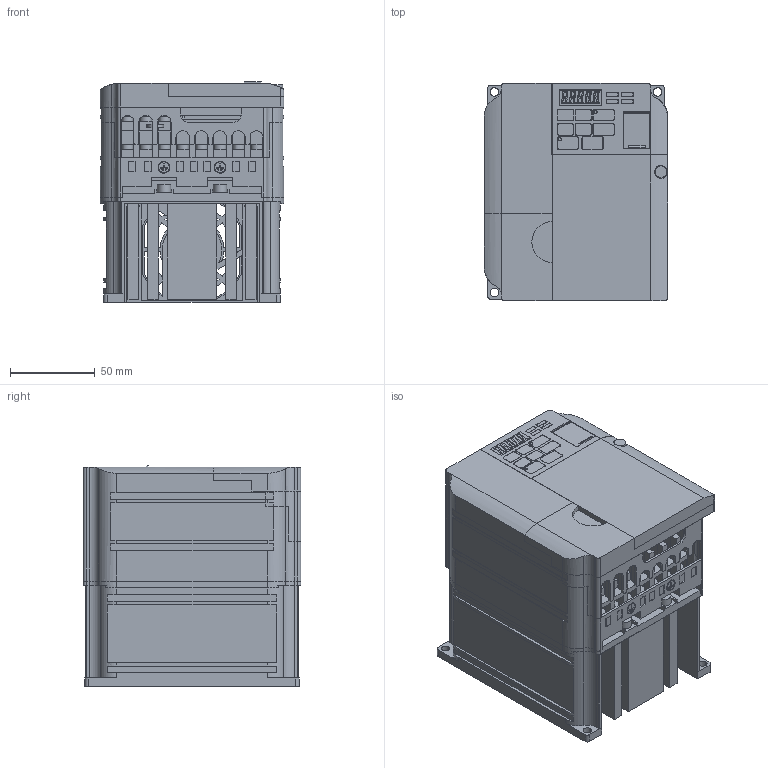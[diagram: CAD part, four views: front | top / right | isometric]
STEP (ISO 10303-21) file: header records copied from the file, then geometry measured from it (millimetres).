
FILE_DESCRIPTION((''),'2;1');
FILE_NAME('V1000_IP20_FRAME_G1_ASM','2010-07-20T',('jc'),('YASKAWA ELECTRIC CORCORATION'),'PRO/ENGINEER BY PARAMETRIC TECHNOLOGY CORPORATION, 2008490','PRO/ENGINEER BY PARAMETRIC TECHNOLOGY CORPORATION, 2008490','');
FILE_SCHEMA(('CONFIG_CONTROL_DESIGN'));
Length unit declared in the file: millimetre
Products named in the file (25): NONE-46688; ASM0063_ASM; NONE-18808; ASM0064_ASM; NONE-43697; ASM0065_ASM; NONE-37211; ASM0066_ASM; NONE-28452; BASE_FAN_B1________ANY_ASM; NONE-29928; ASM0067_ASM; NONE-38762; ASM0068_ASM; NONE-47886; ASM0069_ASM; NONE-49006; ASM0070_ASM; NONE-28603; BASE_HEATSINK_B1________ANY_ASM; NONE-39297; ASM0071_ASM; CIMR_VZ2A0010BAA_ANY_ASM; _2A0010B; V1000_IP20_FRAME_G1_ASM
Assembly tree (24 placements, depth 4):
  V1000_IP20_FRAME_G1_ASM
    CIMR_VZ2A0010BAA_ANY_ASM
      ASM0063_ASM
        NONE-46688
      ASM0064_ASM
        NONE-18808
      ASM0065_ASM
        NONE-43697
      ASM0066_ASM
        NONE-37211
      BASE_FAN_B1________ANY_ASM
        NONE-28452
      ASM0067_ASM
        NONE-29928
      ASM0068_ASM
        NONE-38762
      ASM0069_ASM
        NONE-47886
      ASM0070_ASM
        NONE-49006
      BASE_HEATSINK_B1________ANY_ASM
        NONE-28603
      ASM0071_ASM
        NONE-39297
    _2A0010B
Bounding box: 108 x 128 x 130 mm (x, y, z)
Volume: 1153728.9 mm3; surface area: 290110.8 mm2
Topology: 11 solids, 11 shells, 2034 faces, 5564 edges, 3684 vertices
Faces by surface type: plane 1613, cylinder 421
Entity records: 64720 total; most frequent: CARTESIAN_POINT 11435, ORIENTED_EDGE 11128, DIRECTION 10717, EDGE_CURVE 5564, VECTOR 4601, LINE 4601, VERTEX_POINT 3684, AXIS2_PLACEMENT_3D 3058
